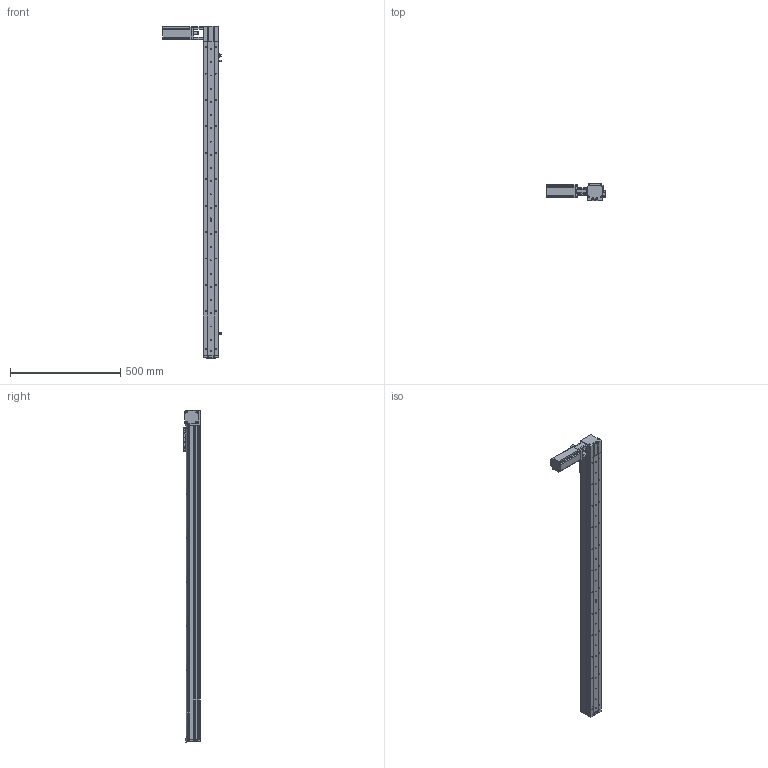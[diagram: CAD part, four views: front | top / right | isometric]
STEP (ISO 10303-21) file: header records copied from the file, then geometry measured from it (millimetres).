
FILE_DESCRIPTION (( 'STEP AP214' ), '1' );
FILE_NAME ('KSD68BS-S1250-MLT-CR.STEP', '2019-11-08T05:27:47', ( '微软用户' ), ( '微软中国' ), 'SwSTEP 2.0', 'SolidWorks 2014', '' );
FILE_SCHEMA (( 'AUTOMOTIVE_DESIGN' ));
Length unit declared in the file: millimetre
Products named in the file (13): 100遵鎮湛假蚾啣1; KSD68BS 1250行程盖板全封闭; 68遵裔啣揤啣1; 68宽单导轨全封闭丝杆传动安装板1防护罩; KSD68BS 1250行程侧板全封闭; 68宽单导轨全封闭同步带端板; 68单导轨全封闭同步带电机座右; 68单导轨全封闭同步带安装板; 感应片68宽全封闭; U倰嫖萇EEㄜSX672; 台达ECMA－C20604AS伺服电机（400W); KSD68BS 1250行程底板全封闭; KSD68BS-S1250-MLT-CR
Assembly tree (16 placements, depth 2):
  KSD68BS-S1250-MLT-CR
    KSD68BS 1250行程底板全封闭
    台达ECMA－C20604AS伺服电机（400W)
    U倰嫖萇EEㄜSX672  x3
    感应片68宽全封闭
    68单导轨全封闭同步带安装板
    68单导轨全封闭同步带电机座右
    68宽单导轨全封闭同步带端板
    KSD68BS 1250行程侧板全封闭  x2
    68宽单导轨全封闭丝杆传动安装板1防护罩
    68遵裔啣揤啣1  x2
    KSD68BS 1250行程盖板全封闭
    100遵鎮湛假蚾啣1
Bounding box: 266.4 x 77 x 1508.1 mm (x, y, z)
Volume: 2822594.2 mm3; surface area: 1092770.1 mm2
Topology: 17 solids, 17 shells, 1492 faces, 4276 edges, 2727 vertices
Faces by surface type: cylinder 716, plane 604, cone 172
Entity records: 47913 total; most frequent: CARTESIAN_POINT 8235, DIRECTION 7092, ORIENTED_EDGE 6788, EDGE_CURVE 3394, AXIS2_PLACEMENT_3D 2574, VERTEX_POINT 2225, VECTOR 1944, LINE 1944
